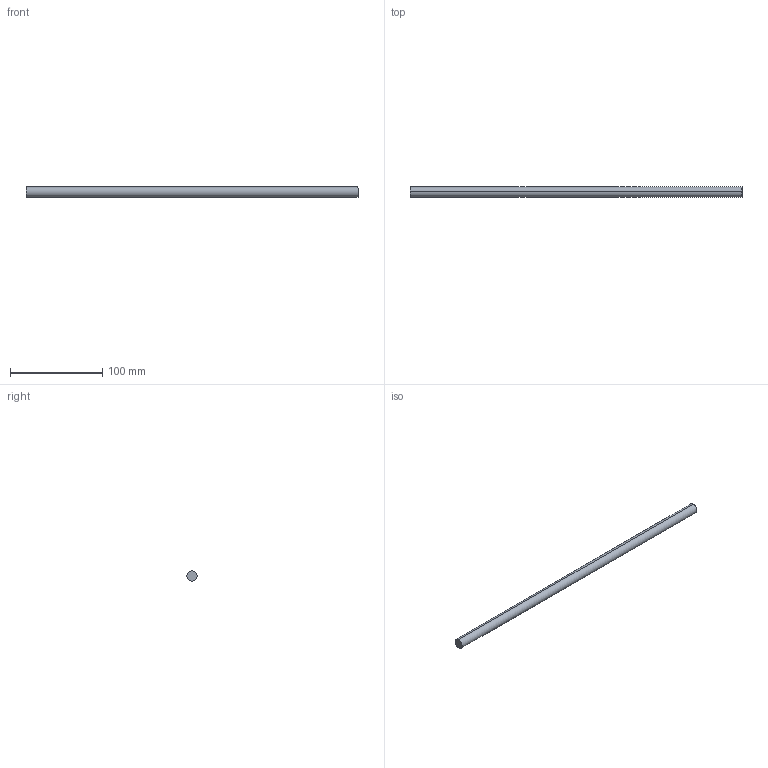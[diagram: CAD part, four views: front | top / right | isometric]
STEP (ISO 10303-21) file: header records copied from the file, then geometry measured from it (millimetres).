
FILE_DESCRIPTION (( 'STEP AP214' ), '1' );
FILE_NAME ('Querreling_Frontblende_Innenlade_KS19_KAB-450.step', '2010-09-22T15:05:33', ( 'grass' ), ( '' ), 'SwSTEP 2.0', 'SolidWorks 2010', '' );
FILE_SCHEMA (( 'AUTOMOTIVE_DESIGN' ));
Length unit declared in the file: millimetre
Products named in the file (1): Querreling_Frontblende_Innenlade_KS19_KAB-450
Bounding box: 359 x 11 x 11 mm (x, y, z)
Volume: 34116.9 mm3; surface area: 12596.2 mm2
Topology: 1 solids, 1 shells, 4 faces, 6 edges, 4 vertices
Faces by surface type: cylinder 2, plane 2
Entity records: 128 total; most frequent: DIRECTION 20, CARTESIAN_POINT 15, ORIENTED_EDGE 12, AXIS2_PLACEMENT_3D 9, EDGE_CURVE 6, VERTEX_POINT 4, ADVANCED_FACE 4, EDGE_LOOP 4
